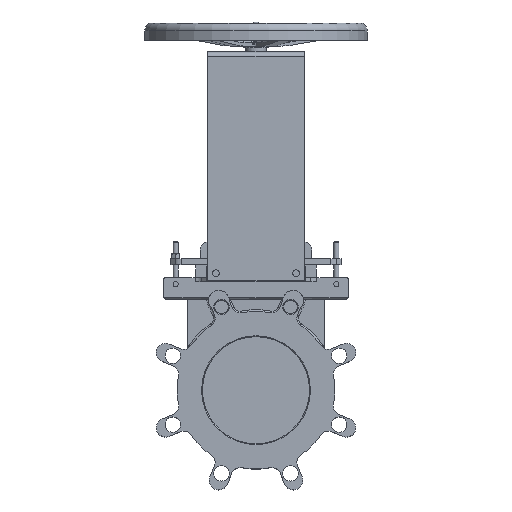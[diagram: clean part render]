
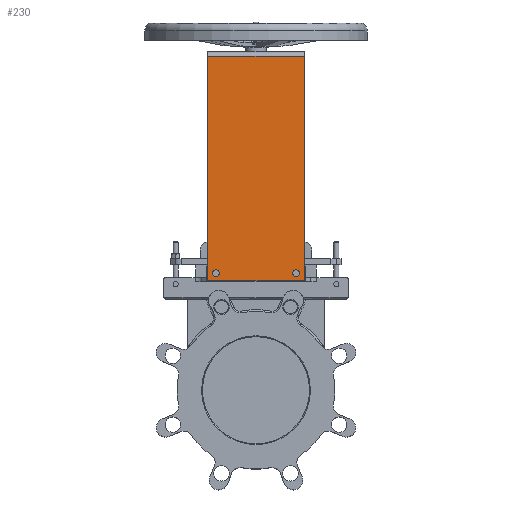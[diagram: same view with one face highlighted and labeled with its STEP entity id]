
A CAD part, top view. The second image highlights one B-rep face of the part: STEP entity #230.
In plain terms, the highlighted planar face has unit normal (0, 0, 1).
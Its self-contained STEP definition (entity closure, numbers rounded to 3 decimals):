
#230=ADVANCED_FACE('',(#5868,#5870,#5872),#5874,.F.);
#5868=FACE_BOUND('',#5869,.T.);
#5869=EDGE_LOOP('',(#13193,#13194,#13195,#13196));
#5870=FACE_BOUND('',#5871,.T.);
#5871=EDGE_LOOP('',(#13197));
#5872=FACE_BOUND('',#5873,.T.);
#5873=EDGE_LOOP('',(#13198));
#5874=PLANE('',#5875);
#5875=AXIS2_PLACEMENT_3D('',#5876,#5877,#5878);
#5876=CARTESIAN_POINT('',(0.,266.527,31.5));
#5877=DIRECTION('',(0.,0.,-1.));
#5878=DIRECTION('',(-1.,0.,0.));
#13193=ORIENTED_EDGE('',*,*,#16650,.F.);
#13194=ORIENTED_EDGE('',*,*,#16683,.F.);
#13195=ORIENTED_EDGE('',*,*,#16661,.F.);
#13196=ORIENTED_EDGE('',*,*,#16684,.F.);
#13197=ORIENTED_EDGE('',*,*,#16685,.F.);
#13198=ORIENTED_EDGE('',*,*,#16686,.F.);
#16650=EDGE_CURVE('',#18402,#18404,#18405,.T.);
#16661=EDGE_CURVE('',#18424,#18426,#18427,.T.);
#16683=EDGE_CURVE('',#18426,#18402,#18461,.T.);
#16684=EDGE_CURVE('',#18404,#18424,#18462,.T.);
#16685=EDGE_CURVE('',#18463,#18463,#18464,.T.);
#16686=EDGE_CURVE('',#18465,#18465,#18466,.T.);
#18402=VERTEX_POINT('',#21300);
#18404=VERTEX_POINT('',#21304);
#18405=LINE('',#21305,#21306);
#18424=VERTEX_POINT('',#21347);
#18426=VERTEX_POINT('',#21352);
#18427=LINE('',#21353,#21354);
#18461=LINE('',#21440,#21441);
#18462=LINE('',#21443,#21444);
#18463=VERTEX_POINT('',#21446);
#18464=CIRCLE('',#21447,4.);
#18465=VERTEX_POINT('',#21451);
#18466=CIRCLE('',#21452,4.);
#21300=CARTESIAN_POINT('',(-56.213,127.398,31.5));
#21304=CARTESIAN_POINT('',(-56.213,389.527,31.5));
#21305=CARTESIAN_POINT('',(-56.213,127.398,31.5));
#21306=VECTOR('',#21307,1.);
#21307=DIRECTION('',(0.,1.,0.));
#21347=CARTESIAN_POINT('',(56.213,389.527,31.5));
#21352=CARTESIAN_POINT('',(56.213,127.398,31.5));
#21353=CARTESIAN_POINT('',(56.213,389.527,31.5));
#21354=VECTOR('',#21355,1.);
#21355=DIRECTION('',(0.,-1.,0.));
#21440=CARTESIAN_POINT('',(56.213,127.398,31.5));
#21441=VECTOR('',#21442,1.);
#21442=DIRECTION('',(-1.,0.,0.));
#21443=CARTESIAN_POINT('',(-56.213,389.527,31.5));
#21444=VECTOR('',#21445,1.);
#21445=DIRECTION('',(1.,0.,0.));
#21446=CARTESIAN_POINT('',(42.759,136.398,31.5));
#21447=AXIS2_PLACEMENT_3D('',#21448,#21449,#21450);
#21448=CARTESIAN_POINT('',(46.759,136.398,31.5));
#21449=DIRECTION('',(0.,0.,1.));
#21450=DIRECTION('',(-1.,0.,0.));
#21451=CARTESIAN_POINT('',(-50.759,136.398,31.5));
#21452=AXIS2_PLACEMENT_3D('',#21453,#21454,#21455);
#21453=CARTESIAN_POINT('',(-46.759,136.398,31.5));
#21454=DIRECTION('',(0.,0.,1.));
#21455=DIRECTION('',(-1.,0.,0.));
